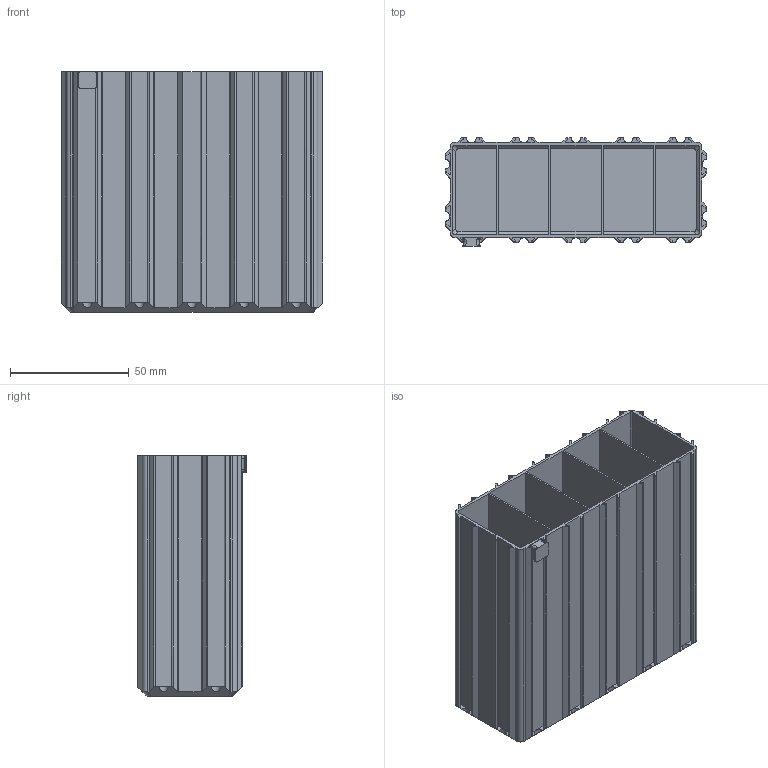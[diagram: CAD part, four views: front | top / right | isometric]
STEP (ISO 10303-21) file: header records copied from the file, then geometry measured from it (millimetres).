
FILE_DESCRIPTION(/* description */ (''),/* implementation_level */ '2;1');
FILE_NAME(/* name */ 'BOX_x05_y02_z100_txn_ty0.stp',/* time_stamp */ '2024-02-16T08:35:59+01:00',/* author */ ('ott'),/* organization */ (''),/* preprocessor_version */ 'ST-DEVELOPER v19.2',/* originating_system */ 'Autodesk Inventor 2023',/* authorisation */ '');
FILE_SCHEMA (('AUTOMOTIVE_DESIGN { 1 0 10303 214 3 1 1 }'));
Length unit declared in the file: millimetre
Products named in the file (1): BOX_x05_y02_z100_txn_ty0
Bounding box: 110 x 45.8 x 101.2 mm (x, y, z)
Volume: 57095.4 mm3; surface area: 106461.9 mm2
Topology: 2 solids, 2 shells, 291 faces, 818 edges, 536 vertices
Faces by surface type: plane 171, cylinder 116, torus 4
Entity records: 9844 total; most frequent: CARTESIAN_POINT 1742, DIRECTION 1668, ORIENTED_EDGE 1636, EDGE_CURVE 818, AXIS2_PLACEMENT_3D 566, LINE 536, VECTOR 536, VERTEX_POINT 536
